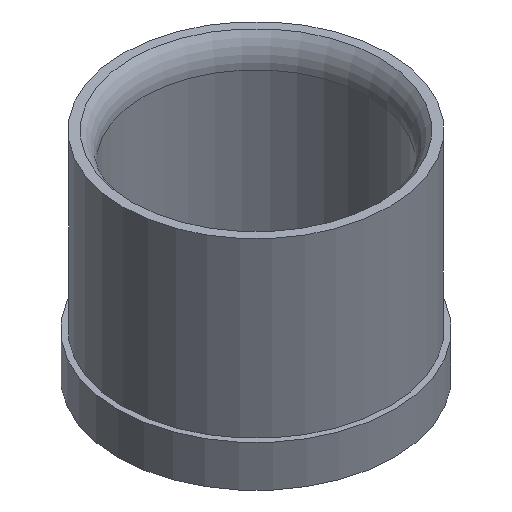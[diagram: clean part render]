
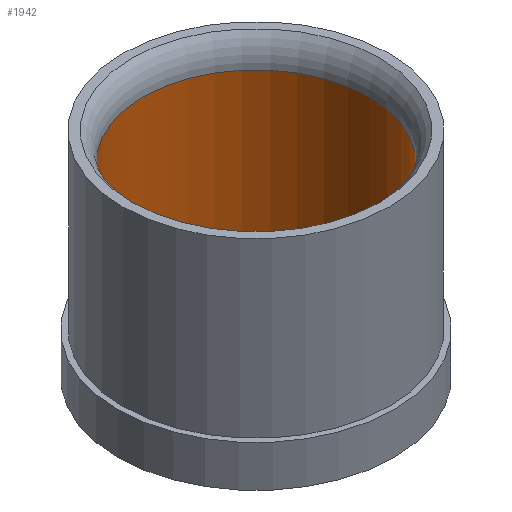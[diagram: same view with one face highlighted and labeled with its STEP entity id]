
A CAD part, isometric view. The second image highlights one B-rep face of the part: STEP entity #1942.
In plain terms, the highlighted cylindrical face has radius 16.35 mm (diameter 32.7 mm), a full revolution.
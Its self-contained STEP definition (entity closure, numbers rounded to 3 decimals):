
#37=CYLINDRICAL_SURFACE('',#2077,16.35);
#285=FACE_OUTER_BOUND('',#401,.T.);
#401=EDGE_LOOP('',(#1774,#1775,#1776,#1777,#1778,#1779,#1780));
#539=LINE('',#4366,#673);
#673=VECTOR('',#2446,16.35);
#728=CIRCLE('',#2075,16.35);
#729=CIRCLE('',#2076,16.35);
#730=CIRCLE('',#2078,16.35);
#731=CIRCLE('',#2079,16.35);
#732=CIRCLE('',#2080,16.35);
#924=VERTEX_POINT('',#4360);
#925=VERTEX_POINT('',#4361);
#926=VERTEX_POINT('',#4365);
#927=VERTEX_POINT('',#4367);
#928=VERTEX_POINT('',#4369);
#1210=EDGE_CURVE('',#924,#925,#728,.T.);
#1211=EDGE_CURVE('',#925,#924,#729,.T.);
#1212=EDGE_CURVE('',#925,#926,#539,.T.);
#1213=EDGE_CURVE('',#927,#926,#730,.T.);
#1214=EDGE_CURVE('',#928,#927,#731,.T.);
#1215=EDGE_CURVE('',#926,#928,#732,.T.);
#1774=ORIENTED_EDGE('',*,*,#1210,.T.);
#1775=ORIENTED_EDGE('',*,*,#1212,.T.);
#1776=ORIENTED_EDGE('',*,*,#1213,.F.);
#1777=ORIENTED_EDGE('',*,*,#1214,.F.);
#1778=ORIENTED_EDGE('',*,*,#1215,.F.);
#1779=ORIENTED_EDGE('',*,*,#1212,.F.);
#1780=ORIENTED_EDGE('',*,*,#1211,.T.);
#1942=ADVANCED_FACE('',(#285),#37,.F.);
#2075=AXIS2_PLACEMENT_3D('',#4362,#2440,#2441);
#2076=AXIS2_PLACEMENT_3D('',#4363,#2442,#2443);
#2077=AXIS2_PLACEMENT_3D('',#4364,#2444,#2445);
#2078=AXIS2_PLACEMENT_3D('',#4368,#2447,#2448);
#2079=AXIS2_PLACEMENT_3D('',#4370,#2449,#2450);
#2080=AXIS2_PLACEMENT_3D('',#4371,#2451,#2452);
#2440=DIRECTION('center_axis',(0.,0.,-1.));
#2441=DIRECTION('ref_axis',(1.,0.,0.));
#2442=DIRECTION('center_axis',(0.,0.,-1.));
#2443=DIRECTION('ref_axis',(1.,0.,0.));
#2444=DIRECTION('center_axis',(0.,0.,-1.));
#2445=DIRECTION('ref_axis',(0.,1.,0.));
#2446=DIRECTION('',(0.,0.,1.));
#2447=DIRECTION('center_axis',(0.,0.,-1.));
#2448=DIRECTION('ref_axis',(1.,0.,0.));
#2449=DIRECTION('center_axis',(0.,0.,-1.));
#2450=DIRECTION('ref_axis',(1.,0.,0.));
#2451=DIRECTION('center_axis',(0.,0.,-1.));
#2452=DIRECTION('ref_axis',(1.,0.,0.));
#4360=CARTESIAN_POINT('',(0.,16.35,4.1));
#4361=CARTESIAN_POINT('',(0.,-16.35,4.1));
#4362=CARTESIAN_POINT('Origin',(0.,0.,4.1));
#4363=CARTESIAN_POINT('Origin',(0.,0.,4.1));
#4364=CARTESIAN_POINT('Origin',(0.,0.,15.55));
#4365=CARTESIAN_POINT('',(0.,-16.35,27.));
#4366=CARTESIAN_POINT('',(0.,-16.35,15.55));
#4367=CARTESIAN_POINT('',(16.35,0.,27.));
#4368=CARTESIAN_POINT('Origin',(0.,0.,27.));
#4369=CARTESIAN_POINT('',(0.,16.35,27.));
#4370=CARTESIAN_POINT('Origin',(0.,0.,27.));
#4371=CARTESIAN_POINT('Origin',(0.,0.,27.));
